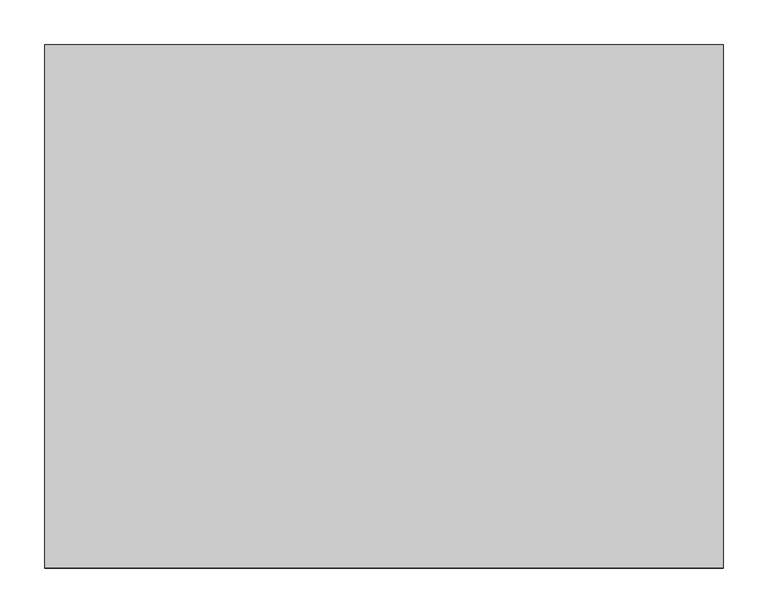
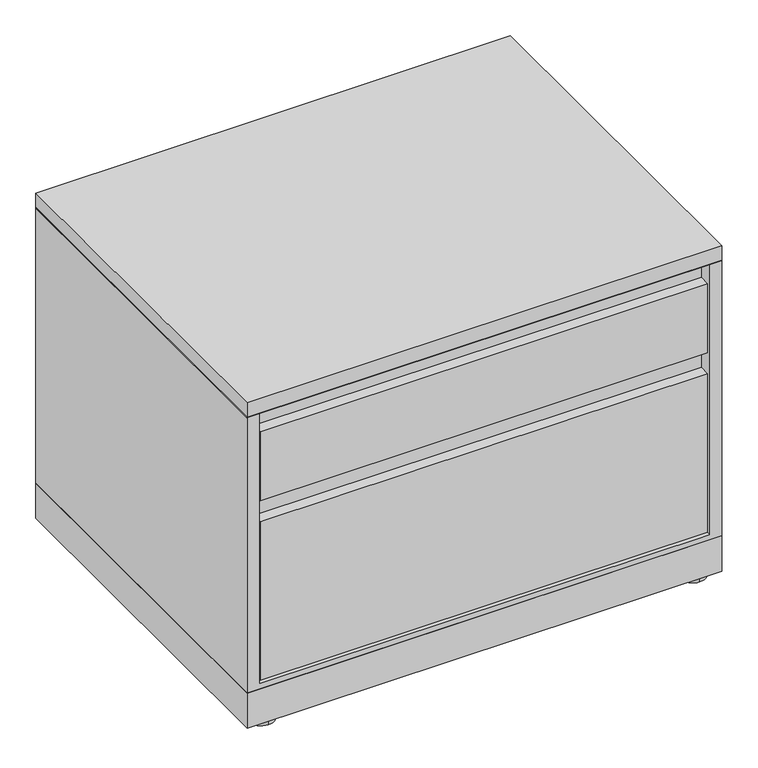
"""IFC4 building model written with IfcOpenShell, lengths in millimetres: furniture geometry, Steelcase - Universal Storage - Lateral File - 1.5 High - Flush Steel : Drawer/Drawer - 23 1/8D x 30W."""

from ifc_helpers import new_model, si_unit, point, frame, frame_2d, origin, origin_with_axes, place, context, project, spatial, polyline, circle_curve, trimmed, segment, composite_curve, outline, extrude, faceted_brep, source, transform, mapped, element, save


def furniture_4c6fe7b0(model_context):
    return source(origin(), model_context, "Body", "SolidModel", [
        extrude(outline(polyline([(762.0, 587.502), (762.0, 0.0), (0.0, 0.0), (0.0, 587.502), (762.0, 587.502)])), frame((0.0, 0.0, 6.3500002), z_axis=(0.0, 0.0, 1.0), x_axis=(1.0, 0.0, 0.0)), (0.0, 0.0, 1.0), 59.6899998),
        extrude(outline(composite_curve([segment(trimmed(circle_curve(frame_2d((727.3290058, 565.1653666)), 20.32), [point((727.3290058, 544.8453666))], [point((727.3290058, 585.4853666))], False, "CARTESIAN"), True, "CONTINUOUS"), segment(trimmed(circle_curve(frame_2d((727.3290058, 565.1653666)), 20.32), [point((727.3290058, 585.4853666))], [point((727.3290058, 544.8453666))], False, "CARTESIAN"), True, "CONTINUOUS")], self_intersect=False)), origin_with_axes(), (0.0, 0.0, 1.0), 6.3500002),
        extrude(outline(composite_curve([segment(trimmed(circle_curve(frame_2d((727.3290058, 20.7491455)), 20.32), [point((727.3290058, 0.4291455))], [point((727.3290058, 41.0691455))], False, "CARTESIAN"), True, "CONTINUOUS"), segment(trimmed(circle_curve(frame_2d((727.3290058, 20.7491455)), 20.32), [point((727.3290058, 41.0691455))], [point((727.3290058, 0.4291455))], False, "CARTESIAN"), True, "CONTINUOUS")], self_intersect=False)), origin_with_axes(), (0.0, 0.0, 1.0), 6.3500002),
        extrude(outline(composite_curve([segment(trimmed(circle_curve(frame_2d((34.29, 565.1653666)), 20.32), [point((34.29, 585.4853666))], [point((34.29, 544.8453666))], False, "CARTESIAN"), True, "CONTINUOUS"), segment(trimmed(circle_curve(frame_2d((34.29, 565.1653666)), 20.32), [point((34.29, 544.8453666))], [point((34.29, 585.4853666))], False, "CARTESIAN"), True, "CONTINUOUS")], self_intersect=False)), origin_with_axes(), (0.0, 0.0, 1.0), 6.3500002),
        extrude(outline(composite_curve([segment(trimmed(circle_curve(frame_2d((34.29, 20.7491455)), 20.32), [point((34.29, 41.0691455))], [point((34.29, 0.4291455))], False, "CARTESIAN"), True, "CONTINUOUS"), segment(trimmed(circle_curve(frame_2d((34.29, 20.7491455)), 20.32), [point((34.29, 0.4291455))], [point((34.29, 41.0691455))], False, "CARTESIAN"), True, "CONTINUOUS")], self_intersect=False)), origin_with_axes(), (0.0, 0.0, 1.0), 6.3500002),
        extrude(outline(polyline([(568.0964128, 396.7988176), (568.0964128, 410.7687861), (571.271412, 410.7687861), (571.271412, 371.5257963), (26.822418, 371.5257963), (26.822418, 396.7988176), (568.0964128, 396.7988176)])), frame((22.0472, 0.0, 0.0), z_axis=(1.0, 0.0, 0.0), x_axis=(0.0, 1.0, 0.0)), (0.0, 0.0, 1.0), 717.9056),
        extrude(outline(polyline([(1.45e-05, 534.0350121), (587.502, 534.0350121), (586.7399879, 533.273), (0.7620266, 533.273), (1.45e-05, 534.0350121)])), frame((0.0, 0.0, 0.0), z_axis=(1.0, 0.0, 0.0), x_axis=(0.0, 1.0, 0.0)), (0.0, 0.0, 1.0), 762.0),
        extrude(outline(polyline([(762.0, 587.502), (762.0, 0.0), (0.0, 0.0), (0.0, 587.502), (762.0, 587.502)])), frame((0.0, 0.0, 534.0350121), z_axis=(0.0, 0.0, 1.0), x_axis=(1.0, 0.0, 0.0)), (0.0, 0.0, 1.0), 24.6379729),
        faceted_brep([(762.0, 0.0, 66.04), (762.0, 587.502, 66.04), (762.0, 587.502, 533.273), (762.0, 0.0, 533.273), (0.0, 0.0, 533.273), (0.0, 587.502, 533.273), (0.0, 587.502, 66.04), (0.0, 0.0, 66.04), (742.95, 0.0, 533.273), (742.95, 0.0, 75.1586), (19.05, 0.0, 75.1586), (19.05, 0.0, 533.273), (19.05, 584.3269999, 533.273), (742.95, 584.3269999, 533.273), (19.05, 584.3269999, 75.1586), (742.95, 584.3269999, 75.1586)], [[[0, 1, 2, 3]], [[4, 5, 6, 7]], [[0, 3, 8, 9, 10, 11, 4, 7]], [[2, 1, 6, 5]], [[3, 2, 5, 4, 11, 12, 13, 8]], [[12, 14, 15, 13]], [[14, 12, 11, 10]], [[13, 15, 9, 8]], [[1, 0, 7, 6]], [[10, 9, 15, 14]]]),
        extrude(outline(polyline([(23.6541043, 79.2988025), (1.5178885, 79.2988025), (1.5178885, 348.1577823), (19.3741023, 348.1577823), (19.3741023, 378.7648167), (23.6541043, 378.7648167), (23.6541043, 79.2988025)])), frame((22.0472, 0.0, 0.0), z_axis=(1.0, 0.0, 0.0), x_axis=(0.0, 1.0, 0.0)), (0.0, 0.0, 1.0), 717.9056),
        extrude(outline(polyline([(23.6541043, 384.1241916), (1.5178885, 384.1241916), (1.5178885, 501.1928089), (19.3741023, 501.1928089), (19.3741023, 531.799807), (23.6541043, 531.799807), (23.6541043, 384.1241916)])), frame((22.0472, 0.0, 0.0), z_axis=(1.0, 0.0, 0.0), x_axis=(0.0, 1.0, 0.0)), (0.0, 0.0, 1.0), 717.9056),
    ])


if __name__ == "__main__":
    model = new_model("IFC4")
    model_context = context("Model", 3, world=origin())
    ifc_project = project(units=[si_unit("LENGTHUNIT", "METRE", prefix="MILLI")], contexts=[model_context])
    site = spatial("IfcSite", under=ifc_project)
    building = spatial("IfcBuilding", under=site)
    placement = place(None, origin())
    furniture_shape = furniture_4c6fe7b0(model_context)
    element("IfcFurniture", 1, ObjectType="Steelcase - Universal Storage - Lateral File - 1.5 High - Flush Steel : Drawer/Drawer - 23 1/8D x 30W", at=placement, inside=building, context=model_context, shape_type="MappedRepresentation", body=[
        mapped(furniture_shape, transform((0.0, 0.0, 0.0), x_axis=(1.0, 0.0, 0.0), y_axis=(0.0, 1.0, 0.0), z_axis=(0.0, 0.0, 1.0))),
    ])
    save(model, "model.ifc")
